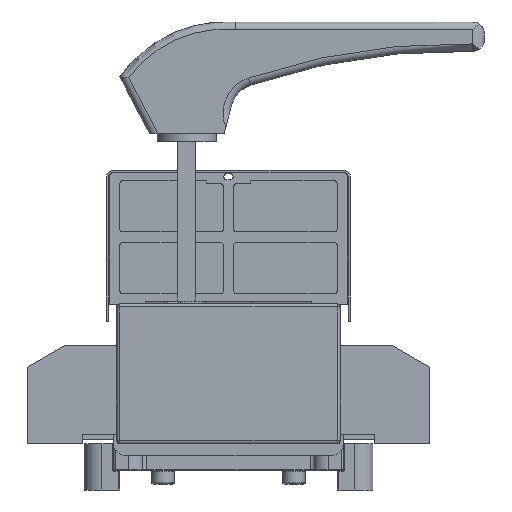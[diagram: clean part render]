
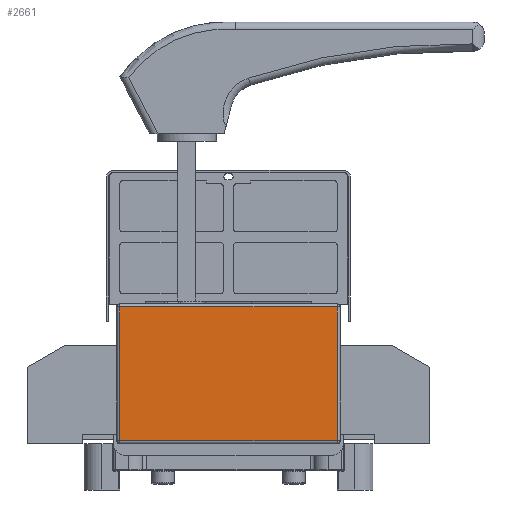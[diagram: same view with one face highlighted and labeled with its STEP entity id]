
A CAD part, left-side view. The second image highlights one B-rep face of the part: STEP entity #2661.
In plain terms, the highlighted planar face has unit normal (-1, 0, 0).
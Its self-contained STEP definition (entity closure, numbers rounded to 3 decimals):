
#1029=FACE_OUTER_BOUND('',#6060,.T.);
#2661=ADVANCED_FACE('',(#1029),#4445,.F.);
#4445=PLANE('',#33710);
#6060=EDGE_LOOP('',(#15909,#15910,#15911,#15912));
#8814=LINE('',#47956,#12162);
#8815=LINE('',#47959,#12163);
#8816=LINE('',#47961,#12164);
#8817=LINE('',#47963,#12165);
#12162=VECTOR('',#37817,1.);
#12163=VECTOR('',#37818,1.);
#12164=VECTOR('',#37819,1.);
#12165=VECTOR('',#37820,1.);
#15909=ORIENTED_EDGE('',*,*,#28364,.T.);
#15910=ORIENTED_EDGE('',*,*,#28365,.T.);
#15911=ORIENTED_EDGE('',*,*,#28366,.T.);
#15912=ORIENTED_EDGE('',*,*,#28367,.T.);
#25097=VERTEX_POINT('',#47957);
#25098=VERTEX_POINT('',#47958);
#25099=VERTEX_POINT('',#47960);
#25100=VERTEX_POINT('',#47962);
#28364=EDGE_CURVE('',#25097,#25098,#8814,.T.);
#28365=EDGE_CURVE('',#25098,#25099,#8815,.T.);
#28366=EDGE_CURVE('',#25099,#25100,#8816,.T.);
#28367=EDGE_CURVE('',#25100,#25097,#8817,.T.);
#33710=AXIS2_PLACEMENT_3D('',#47964,#37821,#37822);
#37817=DIRECTION('',(0.,0.,-1.));
#37818=DIRECTION('',(0.,-1.,0.));
#37819=DIRECTION('',(0.,0.,1.));
#37820=DIRECTION('',(0.,1.,0.));
#37821=DIRECTION('',(1.,0.,0.));
#37822=DIRECTION('',(0.,1.,0.));
#47956=CARTESIAN_POINT('',(-150.,73.,94.));
#47957=CARTESIAN_POINT('',(-150.,73.,92.));
#47958=CARTESIAN_POINT('',(-150.,73.,2.));
#47959=CARTESIAN_POINT('',(-150.,75.,2.));
#47960=CARTESIAN_POINT('',(-150.,-73.,2.));
#47961=CARTESIAN_POINT('',(-150.,-73.,94.));
#47962=CARTESIAN_POINT('',(-150.,-73.,92.));
#47963=CARTESIAN_POINT('',(-150.,73.,92.));
#47964=CARTESIAN_POINT('',(-150.,75.,94.));
